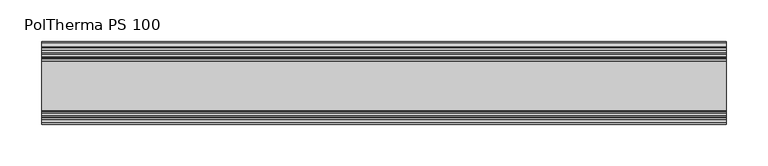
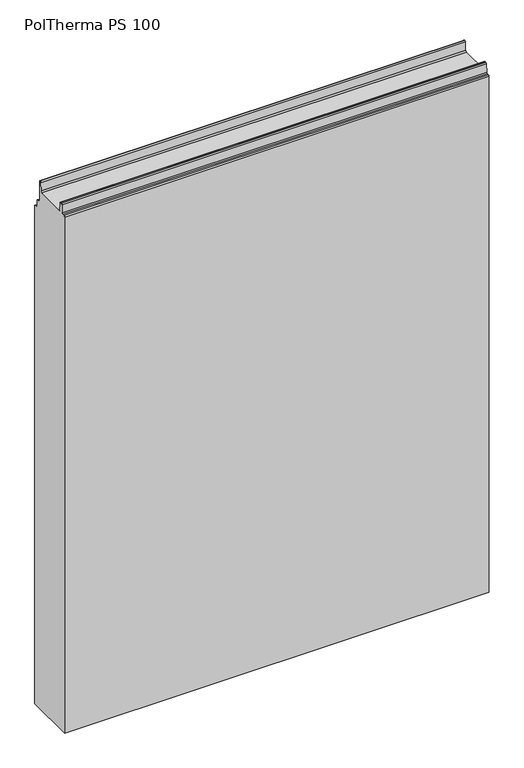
"""IFC4 building model written with IfcOpenShell, lengths in millimetres: plate geometry, Europanels_Poltherma PS_Hz : PolTherma PS 100."""

import ifcopenshell
import ifcopenshell.guid

model = None  # the IFC model being written
_history = None  # IfcOwnerHistory: only IFC2X3 demands one
_inside = {}  # id of a spatial element -> (the spatial element, [elements in it])
_under = {}  # id of a project, library or spatial element -> (it, [spatial elements below it])
_declared = {}  # id of a project -> (the project, [libraries it declares])
_typed = {}  # id of a type object -> (the type object, [elements of that type])
_made_of = {}  # id of a material, layer set ... -> (it, [elements and type objects made of it])


def new_model(schema):
    """Start an empty IFC model of exactly this schema.

    Asked for "IFC4X3", IfcOpenShell would pick the latest addendum, in which some entities
    have other attributes; the version numbers below select the first issue.
    IFC2X3 requires an IfcOwnerHistory on every rooted entity: one is made here for all.
    """
    global model, _history
    if schema == "IFC4X3":
        model = ifcopenshell.file(schema_version=(4, 3, 0, 0))
    else:
        model = ifcopenshell.file(schema=schema)
    _inside.clear()
    _under.clear()
    _declared.clear()
    _typed.clear()
    _made_of.clear()
    _history = None
    if model.schema == "IFC2X3":
        org = make("IfcOrganization", Name="unknown")
        user = make(
            "IfcPersonAndOrganization",
            ThePerson=make("IfcPerson", FamilyName="unknown"),
            TheOrganization=org,
        )
        app = make(
            "IfcApplication",
            ApplicationDeveloper=org,
            Version="unknown",
            ApplicationFullName="unknown",
            ApplicationIdentifier="unknown",
        )
        _history = make(
            "IfcOwnerHistory",
            OwningUser=user,
            OwningApplication=app,
            ChangeAction="ADDED",
            CreationDate=0,
        )
    return model


def make(cls, **values):
    """One entity of the class cls with the attributes given. An attribute that is None is left unset."""
    return model.create_entity(
        cls, **{name: value for name, value in values.items() if value is not None}
    )


def rooted(cls, **values):
    """An entity with a GlobalId (a new one), such as an element, a storey or a relation."""
    return make(cls, GlobalId=ifcopenshell.guid.new(), OwnerHistory=_history, **values)


def si_unit(unit_type, name, prefix=None):
    """IfcSIUnit, for example si_unit("LENGTHUNIT", "METRE", prefix="MILLI")."""
    return make("IfcSIUnit", UnitType=unit_type, Prefix=prefix, Name=name)


def assignment(units):
    """IfcUnitAssignment: the units of a project."""
    return None if units is None else make("IfcUnitAssignment", Units=units)


def point(xyz):
    """IfcCartesianPoint."""
    return None if xyz is None else make("IfcCartesianPoint", Coordinates=xyz)


def direction(xyz):
    """IfcDirection."""
    return None if xyz is None else make("IfcDirection", DirectionRatios=xyz)


def frame(location, z_axis=None, x_axis=None):
    """IfcAxis2Placement3D, a coordinate frame: its origin and axes. An axis left out is left unset."""
    return make(
        "IfcAxis2Placement3D",
        Location=point(location),
        Axis=direction(z_axis),
        RefDirection=direction(x_axis),
    )


def origin():
    """The frame at (0, 0, 0) with its axes left unset."""
    return frame((0.0, 0.0, 0.0))


def place(relative_to, where):
    """IfcLocalPlacement: puts the frame where relative to a parent placement (None: the world)."""
    return make(
        "IfcLocalPlacement", PlacementRelTo=relative_to, RelativePlacement=where
    )


def context(
    kind, dimensions, precision=None, world=None, true_north=None, identifier=None
):
    """IfcGeometricRepresentationContext, for example the 3D "Model" context."""
    return make(
        "IfcGeometricRepresentationContext",
        ContextIdentifier=identifier,
        ContextType=kind,
        CoordinateSpaceDimension=dimensions,
        Precision=precision,
        WorldCoordinateSystem=world,
        TrueNorth=true_north,
    )


def project(units=None, contexts=None):
    """IfcProject with its units and contexts."""
    return rooted(
        "IfcProject",
        Name="project",
        RepresentationContexts=contexts,
        UnitsInContext=assignment(units),
    )


def spatial(cls, under=None, at=None, **own):
    """A site, building, storey or space (cls), placed at a placement, below another one or the project."""
    s = rooted(cls, ObjectPlacement=at, **own)
    if under is not None:
        _under.setdefault(under.id(), (under, []))[1].append(s)
    return s


def polyline(points):
    """IfcPolyline through the points."""
    return make("IfcPolyline", Points=[point(p) for p in points])


def circle_curve(where, radius):
    """IfcCircle in the frame where."""
    return make("IfcCircle", Position=where, Radius=radius)


def shape(context_of_items, identifier, shape_type, items):
    """IfcShapeRepresentation: the items that make up one representation, for example the "Body"."""
    return make(
        "IfcShapeRepresentation",
        ContextOfItems=context_of_items,
        RepresentationIdentifier=identifier,
        RepresentationType=shape_type,
        Items=items,
    )


def source(mapping_origin, context_of_items, identifier, shape_type, items):
    """IfcRepresentationMap: a shape defined once, which mapped items show again and again."""
    return make(
        "IfcRepresentationMap",
        MappingOrigin=mapping_origin,
        MappedRepresentation=shape(context_of_items, identifier, shape_type, items),
    )


def transform(
    local_origin,
    x_axis=None,
    y_axis=None,
    z_axis=None,
    scale=None,
    scale2=None,
    scale3=None,
    uniform=True,
):
    """IfcCartesianTransformationOperator3D, or its non-uniform kind. x_axis, y_axis, z_axis: its Axis1, 2, 3."""
    if uniform:
        return make(
            "IfcCartesianTransformationOperator3D",
            Axis1=direction(x_axis),
            Axis2=direction(y_axis),
            LocalOrigin=point(local_origin),
            Scale=scale,
            Axis3=direction(z_axis),
        )
    return make(
        "IfcCartesianTransformationOperator3DnonUniform",
        Axis1=direction(x_axis),
        Axis2=direction(y_axis),
        LocalOrigin=point(local_origin),
        Scale=scale,
        Axis3=direction(z_axis),
        Scale2=scale2,
        Scale3=scale3,
    )


def mapped(mapping_source, mapping_target):
    """IfcMappedItem: shows the shape of a source again, moved by a transform."""
    return make(
        "IfcMappedItem", MappingSource=mapping_source, MappingTarget=mapping_target
    )


def made_of(thing, what):
    """Note that an element or type object is made of a material, layer set ...; save() writes the relation."""
    if what is not None:
        _made_of.setdefault(what.id(), (what, []))[1].append(thing)
    return thing


def element(
    cls,
    number,
    at=None,
    inside=None,
    cuts=None,
    type_object=None,
    material=None,
    context=None,
    identifier="Body",
    shape_type=None,
    held_by="IfcProductDefinitionShape",
    body=None,
    shapes=None,
    **own,
):
    """One element of the class cls, such as IfcWall. Its Tag is "e" and its number.

    at: its placement. inside: the storey or other place that contains it. cuts: it is an
    opening in that element (IfcRelVoidsElement). A single representation is given by context,
    identifier, shape_type and body (its items); several are given by shapes. held_by: the class
    of the entity that holds the representations. save() writes the other relations.
    """
    e = rooted(cls, Tag="e%d" % number, ObjectPlacement=at, **own)
    if body is not None:
        shapes = [shape(context, identifier, shape_type, body)]
    if shapes is not None:
        e.Representation = make(held_by, Representations=shapes)
    if inside is not None:
        _inside.setdefault(inside.id(), (inside, []))[1].append(e)
    if cuts is not None:
        rooted(
            "IfcRelVoidsElement", RelatingBuildingElement=cuts, RelatedOpeningElement=e
        )
    if type_object is not None:
        _typed.setdefault(type_object.id(), (type_object, []))[1].append(e)
    return made_of(e, material)


def aggregate(whole, parts):
    """IfcRelAggregates: a whole, such as a stair, and the parts it consists of."""
    return rooted("IfcRelAggregates", RelatingObject=whole, RelatedObjects=parts)


def save(model, path):
    """Write the relations noted so far, then the file.

    IfcRelAggregates (storeys below a building ...), IfcRelContainedInSpatialStructure (elements
    in a storey), IfcRelDefinesByType, IfcRelAssociatesMaterial and IfcRelDeclares: one each for
    every whole, place, type object, material and project.
    """
    for whole, parts in _under.values():
        aggregate(whole, parts)
    for where, things in _inside.values():
        rooted(
            "IfcRelContainedInSpatialStructure",
            RelatedElements=things,
            RelatingStructure=where,
        )
    for kind, things in _typed.values():
        rooted("IfcRelDefinesByType", RelatedObjects=things, RelatingType=kind)
    for what, things in _made_of.values():
        rooted("IfcRelAssociatesMaterial", RelatedObjects=things, RelatingMaterial=what)
    for by, libraries in _declared.values():
        rooted("IfcRelDeclares", RelatingContext=by, RelatedDefinitions=libraries)
    model.write(path)


def plane_surface(at):
    """IfcPlane: the flat surface through the origin of the frame at, square to its z axis."""
    return make("IfcPlane", Position=at)


def cylinder_surface(at, radius):
    """IfcCylindricalSurface: all points at the distance radius from the z axis of the frame at."""
    return make("IfcCylindricalSurface", Position=at, Radius=radius)


def revolved_surface(curve, axis_point, axis_direction):
    """IfcSurfaceOfRevolution: the curve turned about the line through axis_point along axis_direction."""
    return make(
        "IfcSurfaceOfRevolution",
        SweptCurve=make("IfcArbitraryOpenProfileDef", ProfileType="CURVE", Curve=curve),
        AxisPosition=make("IfcAxis1Placement", Location=point(axis_point), Axis=direction(axis_direction)),
    )


def advanced_brep(points, edges, surfaces, faces):
    """IfcAdvancedBrep: a solid bounded by faces that lie on surfaces and meet in shared edges.

    An edge is (start, end): straight between two places in points (the first is 0);
    or (start, end, curve); or (start, end, curve, False) where it runs against its curve.
    A face is (place in surfaces, loops), or (place, loops, False) where it looks against
    its surface's normal. A loop lists edges by number (the first is 1), with a minus sign
    where the edge is run from its end to its start. The first loop is the outer one.
    """
    corners = [point(p) for p in points]
    vertices = [make("IfcVertexPoint", VertexGeometry=c) for c in corners]
    made = []
    for start, end, *more in edges:
        made.append(
            make(
                "IfcEdgeCurve",
                EdgeStart=vertices[start],
                EdgeEnd=vertices[end],
                EdgeGeometry=more[0] if more else make("IfcPolyline", Points=[corners[start], corners[end]]),
                SameSense=more[1] if len(more) > 1 else True,
            )
        )
    hull = []
    for where, loops, *sense in faces:
        bounds = []
        for j, loop in enumerate(loops):
            ring = [make("IfcOrientedEdge", EdgeElement=made[abs(k) - 1], Orientation=k > 0) for k in loop]
            bounds.append(
                make(
                    "IfcFaceOuterBound" if j == 0 else "IfcFaceBound",
                    Bound=make("IfcEdgeLoop", EdgeList=ring),
                    Orientation=True,
                )
            )
        hull.append(make("IfcAdvancedFace", Bounds=bounds, FaceSurface=surfaces[where], SameSense=sense[0] if sense else True))
    return make("IfcAdvancedBrep", Outer=make("IfcClosedShell", CfsFaces=hull))


def poltherma_ps_100_14a29abd(model_context):
    return source(origin(), model_context, "Body", "AdvancedBrep", [
        advanced_brep(
        [(412.5, 50.0, 0.0), (412.5, 50.0, 1022.2385671), (412.5, 48.4255288, 1024.3101044), (412.5, 43.7941649, 1025.5968219), (412.5, 42.0, 1027.9574109), (412.5, 42.0, 1038.5271022), (412.5, 39.65, 1040.8771022), (412.5, 36.65, 1040.8771022), (412.5, 34.0, 1043.5271022), (412.5, 34.0, 1082.1367317), (412.5, 31.7657157, 1084.2363881), (412.5, 29.6717693, 1082.2998467), (412.5, 28.9864093, 1065.781124), (412.5, 26.3385145, 1063.2367317), (412.5, -33.7011224, 1063.2367317), (412.5, -34.4432694, 1079.8261148), (412.5, -36.4412711, 1081.7367317), (412.5, -39.1905122, 1081.7367317), (412.5, -41.1863232, 1079.8661089), (412.5, -42.2402866, 1063.6073545), (412.5, -44.2360976, 1061.7367317), (412.5, -47.9973085, 1061.7367317), (412.5, -49.9973085, 1059.7367317), (412.5, -50.0, 0.0), (-412.5, 50.0, 0.0), (-412.5, -50.0, 0.0), (-412.5, -50.0, 1059.7367317), (-412.5, -47.9973085, 1061.7367317), (-412.5, -44.2360976, 1061.7367317), (-412.5, -42.2402866, 1063.6073545), (-412.5, -41.1863232, 1079.8661089), (-412.5, -39.1905122, 1081.7367317), (-412.5, -36.4412711, 1081.7367317), (-412.5, -34.4432694, 1079.8261148), (-412.5, -33.7011224, 1063.2367317), (-412.5, 26.3385145, 1063.2367317), (-412.5, 28.9864093, 1065.781124), (-412.5, 29.6452624, 1082.300507), (-412.5, 31.7657157, 1084.2363881), (-412.5, 33.9748677, 1082.1374188), (-412.5, 34.0, 1043.5271022), (-412.5, 36.65, 1040.8771022), (-412.5, 39.65, 1040.8771022), (-412.5, 42.0, 1038.5271022), (-412.5, 42.0, 1027.9574109), (-412.5, 43.7941649, 1025.5968219), (-412.5, 48.4255288, 1024.3101044), (-412.5, 50.0, 1022.2385671)],
        [
            (0, 1),
            (1, 2, circle_curve(frame((412.5, 47.85, 1022.2385671), z_axis=(1.0, 0.0, 0.0), x_axis=(0.0, 1.0, 0.0)), 2.15)),
            (2, 3),
            (3, 4, circle_curve(frame((412.5, 44.45, 1027.9574109), z_axis=(-1.0, 0.0, 0.0), x_axis=(0.0, 1.0, 0.0)), 2.45)),
            (4, 5),
            (5, 6, circle_curve(frame((412.5, 39.65, 1038.5271022), z_axis=(1.0, 0.0, 0.0), x_axis=(0.0, 1.0, 0.0)), 2.35)),
            (6, 7),
            (7, 8, circle_curve(frame((412.5, 36.65, 1043.5271022), z_axis=(-1.0, 0.0, 0.0), x_axis=(0.0, 1.0, 0.0)), 2.65)),
            (8, 9),
            (9, 10, circle_curve(frame((412.5, 31.8731507, 1082.1374188), z_axis=(1.0, 0.0, 0.0), x_axis=(0.0, 1.0, 0.0)), 2.101717)),
            (10, 11, circle_curve(frame((412.5, 31.7657157, 1082.1360446), z_axis=(1.0, 0.0, 0.0), x_axis=(0.0, 1.0, 0.0)), 2.1003435)),
            (11, 12),
            (12, 13, circle_curve(frame((412.5, 26.3385145, 1065.8867317), z_axis=(-1.0, 0.0, 0.0), x_axis=(0.0, 1.0, 0.0)), 2.65)),
            (13, 14),
            (14, 15),
            (15, 16, circle_curve(frame((412.5, -36.4412711, 1079.7367317), z_axis=(1.0, 0.0, 0.0), x_axis=(0.0, 1.0, 0.0)), 2.0)),
            (16, 17),
            (17, 18, circle_curve(frame((412.5, -39.1905122, 1079.7367317), z_axis=(1.0, 0.0, 0.0), x_axis=(0.0, 1.0, 0.0)), 2.0)),
            (18, 19),
            (19, 20, circle_curve(frame((412.5, -44.2360976, 1063.7367317), z_axis=(-1.0, 0.0, 0.0), x_axis=(0.0, 1.0, 0.0)), 2.0)),
            (20, 21),
            (21, 22, circle_curve(frame((412.5, -47.9973085, 1059.7367317), z_axis=(1.0, 0.0, 0.0), x_axis=(0.0, 1.0, 0.0)), 2.0)),
            (22, 23),
            (23, 0),
            (24, 25),
            (25, 26),
            (26, 27, circle_curve(frame((-412.5, -47.9973085, 1059.7367317), z_axis=(-1.0, 0.0, 0.0), x_axis=(0.0, 1.0, 0.0)), 2.0)),
            (27, 28),
            (28, 29, circle_curve(frame((-412.5, -44.2360976, 1063.7367317), z_axis=(1.0, 0.0, 0.0), x_axis=(0.0, 1.0, 0.0)), 2.0)),
            (29, 30),
            (30, 31, circle_curve(frame((-412.5, -39.1905122, 1079.7367317), z_axis=(-1.0, 0.0, 0.0), x_axis=(0.0, 1.0, 0.0)), 2.0)),
            (31, 32),
            (32, 33, circle_curve(frame((-412.5, -36.4412711, 1079.7367317), z_axis=(-1.0, 0.0, 0.0), x_axis=(0.0, 1.0, 0.0)), 2.0)),
            (33, 34),
            (34, 35),
            (35, 36, circle_curve(frame((-412.5, 26.3385145, 1065.8867317), z_axis=(1.0, 0.0, 0.0), x_axis=(0.0, 1.0, 0.0)), 2.65)),
            (36, 37),
            (37, 38, circle_curve(frame((-412.5, 31.7657157, 1082.1360446), z_axis=(-1.0, 0.0, 0.0), x_axis=(0.0, 1.0, 0.0)), 2.1003435)),
            (38, 39, circle_curve(frame((-412.5, 31.8731507, 1082.1374188), z_axis=(-1.0, 0.0, 0.0), x_axis=(0.0, 1.0, 0.0)), 2.101717)),
            (39, 40),
            (40, 41, circle_curve(frame((-412.5, 36.65, 1043.5271022), z_axis=(1.0, 0.0, 0.0), x_axis=(0.0, 1.0, 0.0)), 2.65)),
            (41, 42),
            (42, 43, circle_curve(frame((-412.5, 39.65, 1038.5271022), z_axis=(-1.0, 0.0, 0.0), x_axis=(0.0, 1.0, 0.0)), 2.35)),
            (43, 44),
            (44, 45, circle_curve(frame((-412.5, 44.45, 1027.9574109), z_axis=(1.0, 0.0, 0.0), x_axis=(0.0, 1.0, 0.0)), 2.45)),
            (45, 46),
            (46, 47, circle_curve(frame((-412.5, 47.85, 1022.2385671), z_axis=(-1.0, 0.0, 0.0), x_axis=(0.0, 1.0, 0.0)), 2.15)),
            (47, 24),
            (0, 24),
            (47, 1),
            (46, 2),
            (45, 3),
            (44, 4),
            (43, 5),
            (42, 6),
            (41, 7),
            (40, 8),
            (39, 9),
            (38, 10),
            (37, 11),
            (36, 12),
            (35, 13),
            (34, 14),
            (33, 15),
            (32, 16),
            (31, 17),
            (30, 18),
            (29, 19),
            (28, 20),
            (27, 21),
            (26, 22),
            (25, 23),
        ],
        [
            plane_surface(frame((412.5, 50.0, 1022.2385671), z_axis=(1.0, 0.0, 0.0), x_axis=(0.0, 0.0, 1.0))),
            plane_surface(frame((-412.5, 50.0, 1022.2385671), z_axis=(-1.0, 0.0, 0.0), x_axis=(0.0, 0.0, -1.0))),
            plane_surface(frame((412.5, 50.0, 0.0), z_axis=(0.0, 1.0, 0.0), x_axis=(-1.0, 0.0, 0.0))),
            cylinder_surface(frame((-412.5, 47.85, 1022.2385671), z_axis=(1.0, 0.0, 0.0), x_axis=(0.0, 1.0, 0.0)), 2.15),
            plane_surface(frame((412.5, 48.4255288, 1024.3101044), z_axis=(0.0, 0.26768780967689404, 0.963505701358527), x_axis=(-1.0, 0.0, 0.0))),
            revolved_surface(polyline([(-412.5, 46.900000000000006, 1027.9574109), (412.5, 46.900000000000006, 1027.9574109)]), (-412.5, 44.45, 1027.9574109), (-1.0, 0.0, 0.0)),
            plane_surface(frame((412.5, 42.0, 1027.9574109), z_axis=(0.0, 1.0, 0.0), x_axis=(-1.0, 0.0, 0.0))),
            cylinder_surface(frame((-412.5, 39.65, 1038.5271022), z_axis=(1.0, 0.0, 0.0), x_axis=(0.0, 1.0, 0.0)), 2.35),
            plane_surface(frame((412.5, 39.65, 1040.8771022), z_axis=(0.0, 0.0, 1.0), x_axis=(-1.0, 0.0, 0.0))),
            revolved_surface(polyline([(-412.5, 39.3, 1043.5271022), (412.5, 39.3, 1043.5271022)]), (-412.5, 36.65, 1043.5271022), (-1.0, 0.0, 0.0)),
            plane_surface(frame((412.5, 34.0, 1043.5271022), z_axis=(0.0, 1.0, 0.0), x_axis=(-1.0, 0.0, 0.0))),
            cylinder_surface(frame((-412.5, 31.8731507, 1082.1374188), z_axis=(1.0, 0.0, 0.0), x_axis=(0.0, 1.0, 0.0)), 2.101717),
            cylinder_surface(frame((-412.5, 31.7657157, 1082.1360446), z_axis=(1.0, 0.0, 0.0), x_axis=(0.0, 1.0, 0.0)), 2.1003435),
            plane_surface(frame((412.5, 29.6452624, 1082.300507), z_axis=(0.0, -0.9992055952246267, 0.039851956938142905), x_axis=(-1.0, 0.0, 0.0))),
            revolved_surface(polyline([(-412.5, 28.988514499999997, 1065.8867317), (412.5, 28.988514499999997, 1065.8867317)]), (-412.5, 26.3385145, 1065.8867317), (-1.0, 0.0, 0.0)),
            plane_surface(frame((412.5, 26.3385145, 1063.2367317), z_axis=(0.0, 0.0, 1.0), x_axis=(-1.0, 0.0, 0.0))),
            plane_surface(frame((412.5, -33.7011224, 1063.2367317), z_axis=(0.0, 0.9990008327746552, 0.04469156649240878), x_axis=(-1.0, 0.0, 0.0))),
            cylinder_surface(frame((-412.5, -36.4412711, 1079.7367317), z_axis=(1.0, 0.0, 0.0), x_axis=(0.0, 1.0, 0.0)), 2.0),
            plane_surface(frame((412.5, -36.4412711, 1081.7367317), z_axis=(0.0, 0.0, 1.0), x_axis=(-1.0, 0.0, 0.0))),
            cylinder_surface(frame((-412.5, -39.1905122, 1079.7367317), z_axis=(1.0, 0.0, 0.0), x_axis=(0.0, 1.0, 0.0)), 2.0),
            plane_surface(frame((412.5, -41.1863232, 1079.8661089), z_axis=(0.0, -0.9979054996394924, 0.06468859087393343), x_axis=(-1.0, 0.0, 0.0))),
            revolved_surface(polyline([(-412.5, -42.2360976, 1063.7367317), (412.5, -42.2360976, 1063.7367317)]), (-412.5, -44.2360976, 1063.7367317), (-1.0, 0.0, 0.0)),
            plane_surface(frame((412.5, -44.2360976, 1061.7367317), z_axis=(0.0, 0.0, 1.0), x_axis=(-1.0, 0.0, 0.0))),
            cylinder_surface(frame((-412.5, -47.9973085, 1059.7367317), z_axis=(1.0, 0.0, 0.0), x_axis=(0.0, 1.0, 0.0)), 2.0),
            plane_surface(frame((412.5, -50.0, 1059.7367317), z_axis=(0.0, -1.0, 0.0), x_axis=(-1.0, 0.0, 0.0))),
            plane_surface(frame((412.5, -50.0, 0.0), z_axis=(0.0, 0.0, -1.0), x_axis=(-1.0, 0.0, 0.0))),
        ],
        [
            (0, [[1, 2, 3, 4, 5, 6, 7, 8, 9, 10, 11, 12, 13, 14, 15, 16, 17, 18, 19, 20, 21, 22, 23, 24]]),
            (1, [[25, 26, 27, 28, 29, 30, 31, 32, 33, 34, 35, 36, 37, 38, 39, 40, 41, 42, 43, 44, 45, 46, 47, 48]]),
            (2, [[-1, 49, -48, 50]]),
            (3, [[-2, -50, -47, 51]]),
            (4, [[-3, -51, -46, 52]]),
            (5, [[-4, -52, -45, 53]]),
            (6, [[-5, -53, -44, 54]]),
            (7, [[-6, -54, -43, 55]]),
            (8, [[-7, -55, -42, 56]]),
            (9, [[-8, -56, -41, 57]]),
            (10, [[-9, -57, -40, 58]]),
            (11, [[-10, -58, -39, 59]]),
            (12, [[-11, -59, -38, 60]]),
            (13, [[-12, -60, -37, 61]]),
            (14, [[-13, -61, -36, 62]]),
            (15, [[-14, -62, -35, 63]]),
            (16, [[-15, -63, -34, 64]]),
            (17, [[-16, -64, -33, 65]]),
            (18, [[-17, -65, -32, 66]]),
            (19, [[-18, -66, -31, 67]]),
            (20, [[-19, -67, -30, 68]]),
            (21, [[-20, -68, -29, 69]]),
            (22, [[-21, -69, -28, 70]]),
            (23, [[-22, -70, -27, 71]]),
            (24, [[-23, -71, -26, 72]]),
            (25, [[-24, -72, -25, -49]]),
        ],
    ),
    ])


if __name__ == "__main__":
    model = new_model("IFC4")
    model_context = context("Model", 3, world=origin())
    ifc_project = project(units=[si_unit("LENGTHUNIT", "METRE", prefix="MILLI")], contexts=[model_context])
    site = spatial("IfcSite", under=ifc_project)
    building = spatial("IfcBuilding", under=site)
    placement = place(None, origin())
    poltherma_ps_100_shape = poltherma_ps_100_14a29abd(model_context)
    element("IfcPlate", 1, ObjectType="Europanels_Poltherma PS_Hz : PolTherma PS 100", at=placement, inside=building, context=model_context, shape_type="MappedRepresentation", body=[
        mapped(poltherma_ps_100_shape, transform((0.0, 0.0, 0.0), x_axis=(1.0, 0.0, 0.0), y_axis=(0.0, 1.0, 0.0), z_axis=(0.0, 0.0, 1.0))),
    ])
    save(model, "model.ifc")
